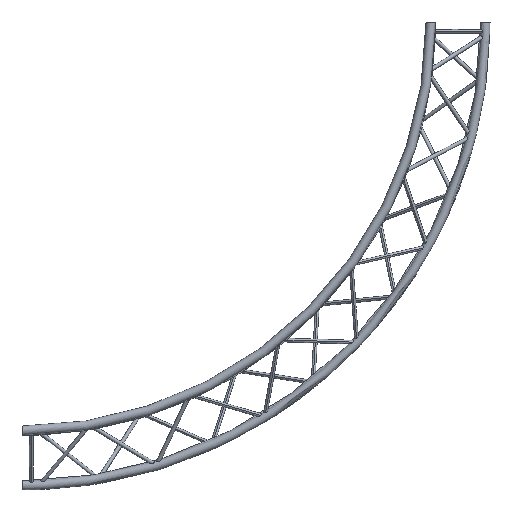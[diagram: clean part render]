
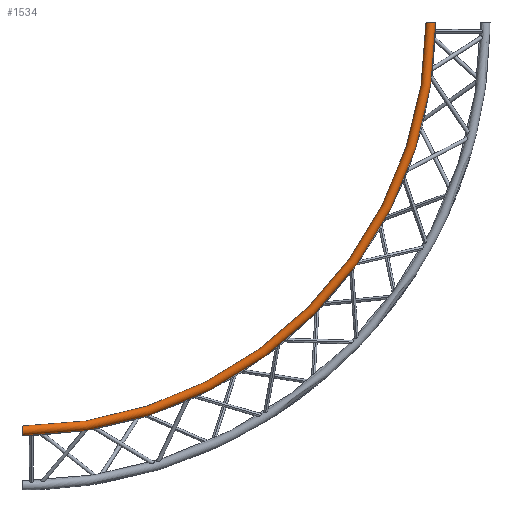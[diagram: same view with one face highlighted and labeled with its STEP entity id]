
A CAD part, front view. The second image highlights one B-rep face of the part: STEP entity #1534.
In plain terms, the highlighted toroidal (fillet/blend) face has major radius 2183.15 mm and minor radius 25 mm.
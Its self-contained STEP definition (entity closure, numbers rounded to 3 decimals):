
#866 = CARTESIAN_POINT ( 'NONE',  ( 0., -168.5, -2208.149 ) ) ;
#913 = CARTESIAN_POINT ( 'NONE',  ( 0., -168.5, 0. ) ) ;
#916 = DIRECTION ( 'NONE',  ( 0., 0., -1. ) ) ;
#918 = DIRECTION ( 'NONE',  ( 0., -1., 0. ) ) ;
#919 = AXIS2_PLACEMENT_3D ( 'NONE', #913, #918, #916 ) ;
#920 = CARTESIAN_POINT ( 'NONE',  ( 0., -168.5, -2158.149 ) ) ;
#921 = CIRCLE ( 'NONE', #919, 2158.149 ) ;
#922 = DIRECTION ( 'NONE',  ( 0., 0., -1. ) ) ;
#923 = CIRCLE ( 'NONE', #925, 2208.149 ) ;
#924 = DIRECTION ( 'NONE',  ( 0., -1., 0. ) ) ;
#925 = AXIS2_PLACEMENT_3D ( 'NONE', #926, #924, #922 ) ;
#926 = CARTESIAN_POINT ( 'NONE',  ( 0., -168.5, 0. ) ) ;
#927 = CARTESIAN_POINT ( 'NONE',  ( 2208.149, -168.5, 0. ) ) ;
#928 = CIRCLE ( 'NONE', #930, 25. ) ;
#929 = CARTESIAN_POINT ( 'NONE',  ( 2183.149, -168.5, 0. ) ) ;
#930 = AXIS2_PLACEMENT_3D ( 'NONE', #929, #931, #932 ) ;
#931 = DIRECTION ( 'NONE',  ( 0., 0., 1. ) ) ;
#932 = DIRECTION ( 'NONE',  ( 1., 0., 0. ) ) ;
#942 = CARTESIAN_POINT ( 'NONE',  ( 2158.149, -168.5, 0. ) ) ;
#1467 = EDGE_CURVE ( 'NONE', #1504, #1468, #923, .T. ) ;
#1468 = VERTEX_POINT ( 'NONE', #927 ) ;
#1469 = ORIENTED_EDGE ( 'NONE', *, *, #1470, .F. ) ;
#1470 = EDGE_CURVE ( 'NONE', #1471, #1468, #928, .T. ) ;
#1471 = VERTEX_POINT ( 'NONE', #942 ) ;
#1498 = VERTEX_POINT ( 'NONE', #920 ) ;
#1500 = ORIENTED_EDGE ( 'NONE', *, *, #1501, .F. ) ;
#1501 = EDGE_CURVE ( 'NONE', #1498, #1471, #921, .T. ) ;
#1503 = ORIENTED_EDGE ( 'NONE', *, *, #1511, .T. ) ;
#1504 = VERTEX_POINT ( 'NONE', #866 ) ;
#1505 = ORIENTED_EDGE ( 'NONE', *, *, #1467, .T. ) ;
#1511 = EDGE_CURVE ( 'NONE', #1498, #1504, #7098, .T. ) ;
#1534 = ADVANCED_FACE ( 'NONE', ( #7162 ), #7161, .T. ) ;
#1541 = EDGE_LOOP ( 'NONE', ( #1503, #1505, #1469, #1500 ) ) ;
#7091 = DIRECTION ( 'NONE',  ( 0., 0., -1. ) ) ;
#7092 = DIRECTION ( 'NONE',  ( 1., 0., 0. ) ) ;
#7093 = CARTESIAN_POINT ( 'NONE',  ( 0., -168.5, -2183.149 ) ) ;
#7094 = AXIS2_PLACEMENT_3D ( 'NONE', #7093, #7092, #7091 ) ;
#7098 = CIRCLE ( 'NONE', #7094, 25. ) ;
#7157 = DIRECTION ( 'NONE',  ( 0., 0., -1. ) ) ;
#7158 = DIRECTION ( 'NONE',  ( 0., -1., 0. ) ) ;
#7159 = AXIS2_PLACEMENT_3D ( 'NONE', #7160, #7158, #7157 ) ;
#7160 = CARTESIAN_POINT ( 'NONE',  ( 0., -168.5, 0. ) ) ;
#7161 = TOROIDAL_SURFACE ( 'NONE', #7159, 2183.149, 25. ) ;
#7162 = FACE_OUTER_BOUND ( 'NONE', #1541, .T. ) ;
